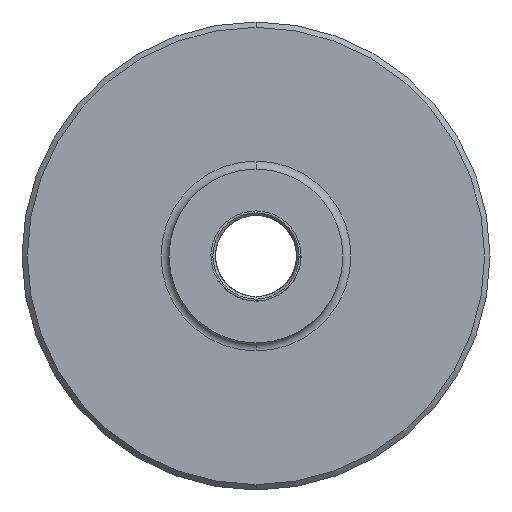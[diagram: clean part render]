
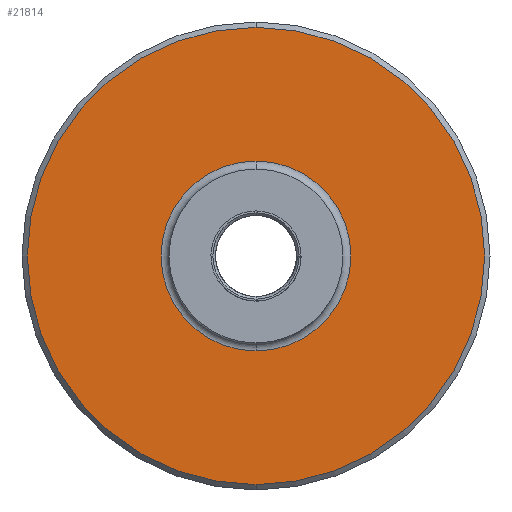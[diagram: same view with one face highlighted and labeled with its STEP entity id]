
A CAD part, front view. The second image highlights one B-rep face of the part: STEP entity #21814.
In plain terms, the highlighted planar face has unit normal (0, -1, 0).
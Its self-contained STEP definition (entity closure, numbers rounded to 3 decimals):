
#204 = CARTESIAN_POINT ( 'NONE',  ( 298.6, -286.891, 553.363 ) ) ;
#1546 = PLANE ( 'NONE',  #11344 ) ;
#2056 = CIRCLE ( 'NONE', #25265, 35.5 ) ;
#2072 = VERTEX_POINT ( 'NONE', #14109 ) ;
#2402 = FACE_BOUND ( 'NONE', #40625, .T. ) ;
#3149 = EDGE_LOOP ( 'NONE', ( #32275, #14968 ) ) ;
#3787 = CARTESIAN_POINT ( 'NONE',  ( 298.6, -286.891, 638.863 ) ) ;
#4992 = AXIS2_PLACEMENT_3D ( 'NONE', #34793, #19168, #31888 ) ;
#5596 = CARTESIAN_POINT ( 'NONE',  ( 298.6, -286.891, 638.863 ) ) ;
#11344 = AXIS2_PLACEMENT_3D ( 'NONE', #11932, #15228, #21637 ) ;
#11932 = CARTESIAN_POINT ( 'NONE',  ( 298.6, -286.891, 638.863 ) ) ;
#12456 = EDGE_CURVE ( 'NONE', #2072, #33024, #23175, .T. ) ;
#13922 = DIRECTION ( 'NONE',  ( 0., -1., 0. ) ) ;
#14109 = CARTESIAN_POINT ( 'NONE',  ( 298.6, -286.891, 724.363 ) ) ;
#14968 = ORIENTED_EDGE ( 'NONE', *, *, #40705, .T. ) ;
#15228 = DIRECTION ( 'NONE',  ( 0., 1., 0. ) ) ;
#17901 = ORIENTED_EDGE ( 'NONE', *, *, #18181, .T. ) ;
#18181 = EDGE_CURVE ( 'NONE', #34343, #22593, #38126, .T. ) ;
#19168 = DIRECTION ( 'NONE',  ( 0., 1., 0. ) ) ;
#19724 = DIRECTION ( 'NONE',  ( 0., -1., 0. ) ) ;
#21637 = DIRECTION ( 'NONE',  ( 0., 0., 1. ) ) ;
#21814 = ADVANCED_FACE ( 'NONE', ( #30854, #2402 ), #1546, .F. ) ;
#22593 = VERTEX_POINT ( 'NONE', #30845 ) ;
#22741 = AXIS2_PLACEMENT_3D ( 'NONE', #3787, #19724, #39278 ) ;
#23175 = CIRCLE ( 'NONE', #29168, 85.5 ) ;
#24214 = CARTESIAN_POINT ( 'NONE',  ( 298.6, -286.891, 674.363 ) ) ;
#25265 = AXIS2_PLACEMENT_3D ( 'NONE', #5596, #25296, #37737 ) ;
#25296 = DIRECTION ( 'NONE',  ( 0., 1., 0. ) ) ;
#29168 = AXIS2_PLACEMENT_3D ( 'NONE', #39061, #13922, #29926 ) ;
#29463 = EDGE_CURVE ( 'NONE', #22593, #34343, #2056, .T. ) ;
#29926 = DIRECTION ( 'NONE',  ( 0., 0., 1. ) ) ;
#30845 = CARTESIAN_POINT ( 'NONE',  ( 298.6, -286.891, 603.363 ) ) ;
#30854 = FACE_OUTER_BOUND ( 'NONE', #3149, .T. ) ;
#31040 = ORIENTED_EDGE ( 'NONE', *, *, #29463, .T. ) ;
#31888 = DIRECTION ( 'NONE',  ( 0., 0., 1. ) ) ;
#32275 = ORIENTED_EDGE ( 'NONE', *, *, #12456, .T. ) ;
#33024 = VERTEX_POINT ( 'NONE', #204 ) ;
#34343 = VERTEX_POINT ( 'NONE', #24214 ) ;
#34793 = CARTESIAN_POINT ( 'NONE',  ( 298.6, -286.891, 638.863 ) ) ;
#37737 = DIRECTION ( 'NONE',  ( 0., 0., 1. ) ) ;
#38126 = CIRCLE ( 'NONE', #4992, 35.5 ) ;
#39061 = CARTESIAN_POINT ( 'NONE',  ( 298.6, -286.891, 638.863 ) ) ;
#39278 = DIRECTION ( 'NONE',  ( 0., 0., 1. ) ) ;
#40625 = EDGE_LOOP ( 'NONE', ( #17901, #31040 ) ) ;
#40705 = EDGE_CURVE ( 'NONE', #33024, #2072, #40725, .T. ) ;
#40725 = CIRCLE ( 'NONE', #22741, 85.5 ) ;
